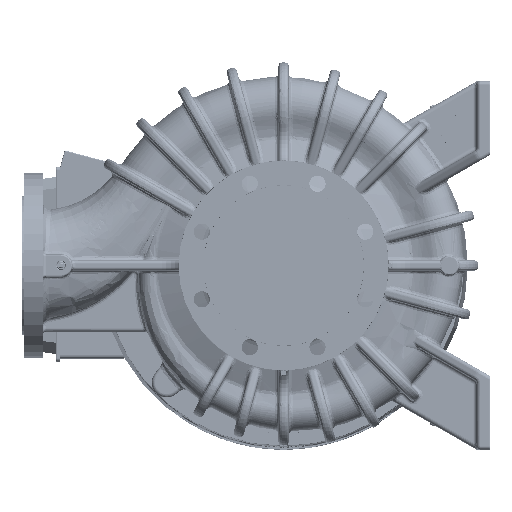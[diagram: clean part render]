
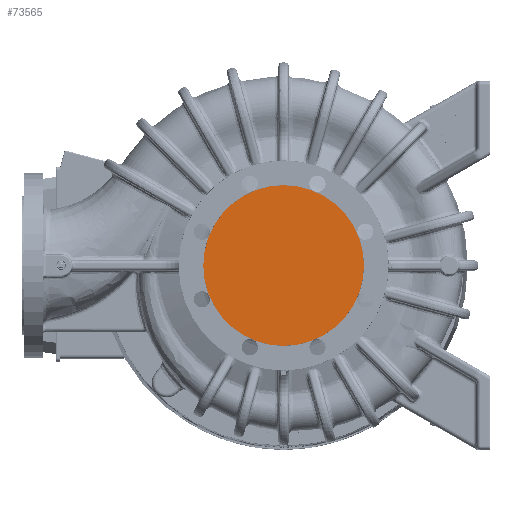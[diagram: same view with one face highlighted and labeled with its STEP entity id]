
A CAD part, left-side view. The second image highlights one B-rep face of the part: STEP entity #73565.
In plain terms, the highlighted planar face has unit normal (-1, 0, 0) as drawn and (0, 0, 1) by its records, which use the part's own axes.
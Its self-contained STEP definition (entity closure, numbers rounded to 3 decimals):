
#2321=CARTESIAN_POINT('',(0.,0.,140.));
#2322=DIRECTION('',(0.,0.,1.));
#2323=DIRECTION('',(1.,0.,0.));
#2324=AXIS2_PLACEMENT_3D('',#2321,#2322,#2323);
#2330=CARTESIAN_POINT('',(0.,0.,140.));
#2331=DIRECTION('',(0.,0.,1.));
#2332=DIRECTION('',(-1.,0.,0.));
#2333=AXIS2_PLACEMENT_3D('',#2330,#2331,#2332);
#64164=CARTESIAN_POINT('',(109.,0.,140.));
#64165=CARTESIAN_POINT('',(-109.,0.,140.));
#64166=VERTEX_POINT('',#64164);
#64167=VERTEX_POINT('',#64165);
#73556=CARTESIAN_POINT('',(0.,0.,140.));
#73557=DIRECTION('',(0.,0.,-1.));
#73558=DIRECTION('',(-1.,0.,0.));
#73559=AXIS2_PLACEMENT_3D('',#73556,#73557,#73558);
#73560=PLANE('',#73559);
#73561=ORIENTED_EDGE('',*,*,#73528,.F.);
#73562=ORIENTED_EDGE('',*,*,#73547,.F.);
#73563=EDGE_LOOP('',(#73561,#73562));
#73564=FACE_OUTER_BOUND('',#73563,.F.);
#73565=ADVANCED_FACE('',(#73564),#73560,.F.);
#2325=CIRCLE('',#2324,109.);
#2334=CIRCLE('',#2333,109.);
#73528=EDGE_CURVE('',#64166,#64167,#2325,.T.);
#73547=EDGE_CURVE('',#64167,#64166,#2334,.T.);
